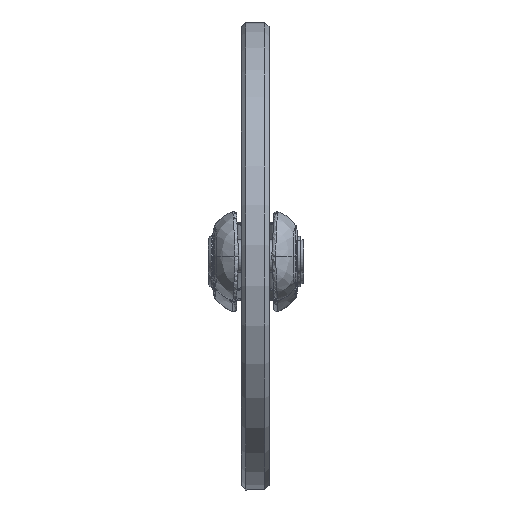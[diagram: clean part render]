
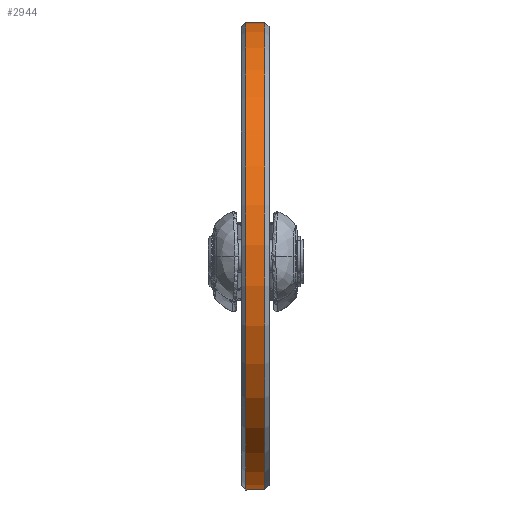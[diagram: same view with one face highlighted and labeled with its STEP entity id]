
A CAD part, top view. The second image highlights one B-rep face of the part: STEP entity #2944.
In plain terms, the highlighted cylindrical face has radius 85 mm (diameter 170 mm), a full revolution.
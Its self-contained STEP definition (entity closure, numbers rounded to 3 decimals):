
#715=FACE_BOUND($,#1332,.T.);
#884=CIRCLE($,#3258,85.);
#885=CIRCLE($,#3260,85.);
#1062=FACE_OUTER_BOUND($,#1331,.T.);
#1331=EDGE_LOOP($,(#2701));
#1332=EDGE_LOOP($,(#2702));
#1609=VERTEX_POINT($,#14341);
#1610=VERTEX_POINT($,#14344);
#1978=EDGE_CURVE($,#1609,#1609,#884,.T.);
#1979=EDGE_CURVE($,#1610,#1610,#885,.T.);
#2701=ORIENTED_EDGE($,*,*,#1979,.F.);
#2702=ORIENTED_EDGE($,*,*,#1978,.F.);
#2753=CYLINDRICAL_SURFACE($,#3259,85.);
#2944=ADVANCED_FACE($,(#1062,#715),#2753,.T.);
#3258=AXIS2_PLACEMENT_3D($,#14342,#3933,#3934);
#3259=AXIS2_PLACEMENT_3D($,#14343,#3935,#3936);
#3260=AXIS2_PLACEMENT_3D($,#14345,#3937,#3938);
#3933=DIRECTION('center_axis',(0.,0.,-1.));
#3934=DIRECTION('ref_axis',(-1.,0.,0.));
#3935=DIRECTION('center_axis',(0.,0.,1.));
#3936=DIRECTION('ref_axis',(-1.,0.,0.));
#3937=DIRECTION('center_axis',(0.,0.,1.));
#3938=DIRECTION('ref_axis',(-1.,0.,0.));
#14341=CARTESIAN_POINT('',(85.,0.,-3.5));
#14342=CARTESIAN_POINT('Origin',(0.,0.,-3.5));
#14343=CARTESIAN_POINT('Origin',(0.,0.,0.));
#14344=CARTESIAN_POINT('',(85.,0.,3.5));
#14345=CARTESIAN_POINT('Origin',(0.,0.,3.5));
